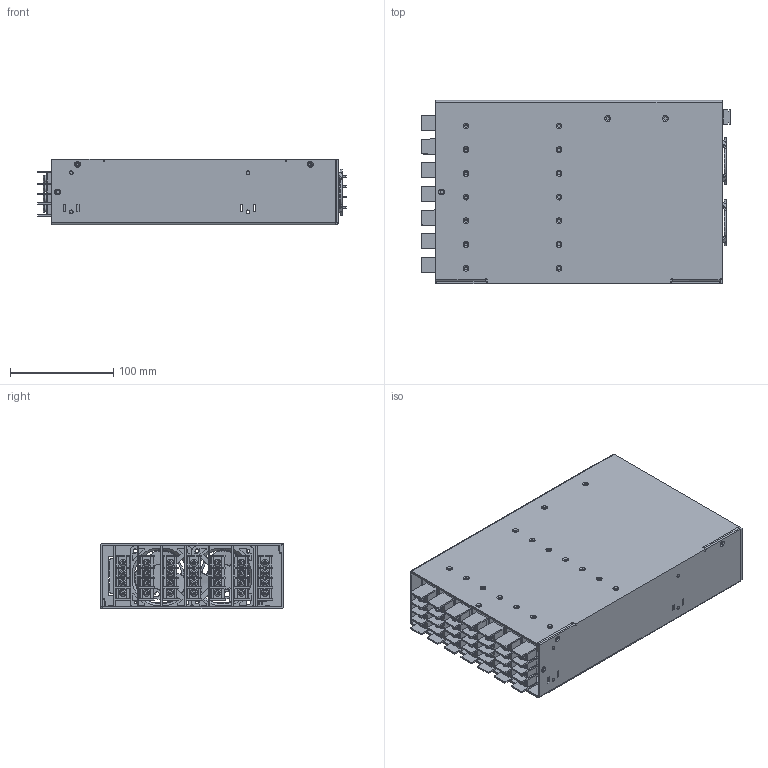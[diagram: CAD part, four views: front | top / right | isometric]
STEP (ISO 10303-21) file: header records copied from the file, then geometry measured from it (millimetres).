
FILE_DESCRIPTION(('Creo Elements/Direct Modeling STEP Export'),'2;1');
FILE_NAME('MP1K0.stp','2017-07-26T10:18:00',(''),(''),'PTC Creo Elements/Direct Modeling STEP processor for AP214 (Solid Model)','PTC Creo Elements/Direct Modeling 19.0 09-May-2014 (C) Parametric Technology GmbH','');
FILE_SCHEMA(('AUTOMOTIVE_DESIGN { 1 0 10303 214 1 1 1 1 }'));
Length unit declared in the file: millimetre
Products named in the file (13): ¤ïÊl.1; JJJ; ssss.1.1.1.1; FAN; FAN_4715KL40WB30_2; FAN-ALL.1; WWW; p1; 1.2.1; JS100107.1; ffff.1.1; ÙñÛ¯; a2
Assembly tree (20 placements, depth 4):
  a2
    ÙñÛ¯
      FAN-ALL.1
        FAN_4715KL40WB30_2
        FAN
    ffff.1.1
    JS100107.1
      1.2.1  x2
      p1
    WWW
    ssss.1.1.1.1  x7
      JJJ
      ¤ïÊl.1
    FAN-ALL.1
      FAN_4715KL40WB30_2
      FAN
Bounding box: 299.66 x 177.8 x 63.5 mm (x, y, z)
Volume: 481764.6 mm3; surface area: 493720.6 mm2
Topology: 21 solids, 23 shells, 2748 faces, 7011 edges, 4396 vertices
Faces by surface type: plane 1816, cylinder 602, cone 136, torus 98, bspline 96
Entity records: 52202 total; most frequent: CARTESIAN_POINT 20237, ORIENTED_EDGE 6694, DIRECTION 5720, EDGE_CURVE 3350, VERTEX_POINT 2114, VECTOR 1920, LINE 1920, AXIS2_PLACEMENT_3D 1900
